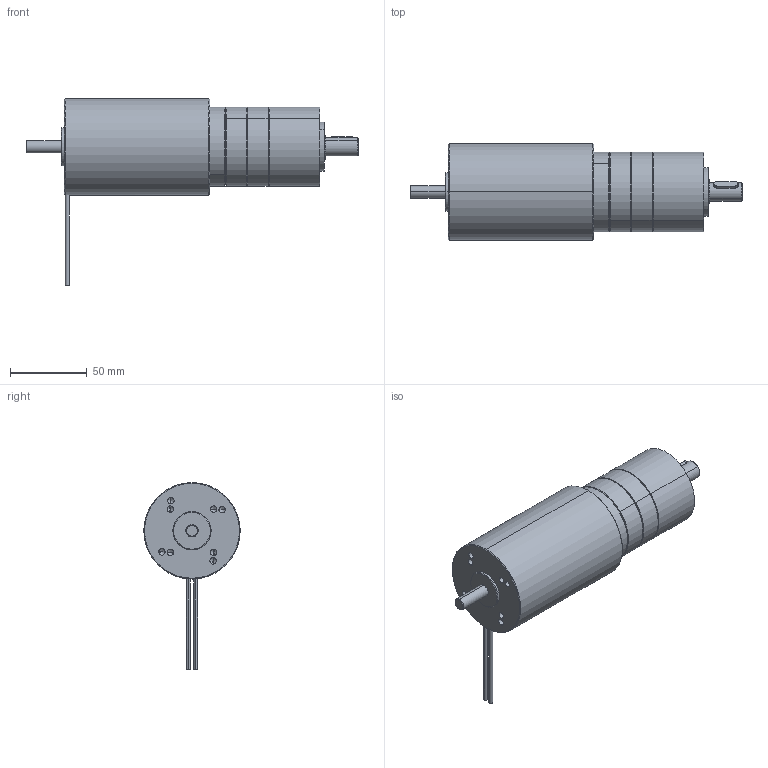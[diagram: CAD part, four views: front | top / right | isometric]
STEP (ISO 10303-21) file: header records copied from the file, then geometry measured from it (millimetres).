
FILE_DESCRIPTION (( 'STEP AP214' ), '1' );
FILE_NAME ('1-17-063-2xx_PM52-2st.STEP', '2020-11-23T11:09:22', ( '' ), ( '' ), 'SwSTEP 2.0', 'SolidWorks 2019', '' );
FILE_SCHEMA (( 'AUTOMOTIVE_DESIGN' ));
Length unit declared in the file: millimetre
Products named in the file (4): 1-17-063-2xx_PM52-2st; Motor bulher 1.17.063.202 ; 7201574_Part; PM52 - 2etages
Assembly tree (3 placements, depth 2):
  1-17-063-2xx_PM52-2st
    Motor bulher 1.17.063.202 
    7201574_Part
    PM52 - 2etages
Bounding box: 216.85 x 63 x 122.05 mm (x, y, z)
Volume: 319514.3 mm3; surface area: 98734.6 mm2
Topology: 2 solids, 43 shells, 1083 faces, 2814 edges, 1809 vertices
Faces by surface type: cylinder 539, plane 365, cone 131, bspline 48
Entity records: 46050 total; most frequent: CARTESIAN_POINT 7335, DIRECTION 6067, ORIENTED_EDGE 5492, EDGE_CURVE 2772, AXIS2_PLACEMENT_3D 2309, VERTEX_POINT 1809, VECTOR 1449, LINE 1449
